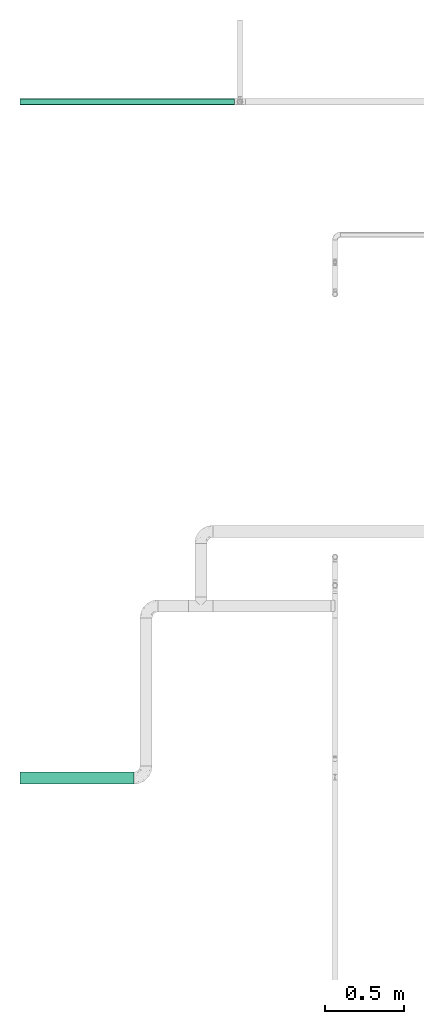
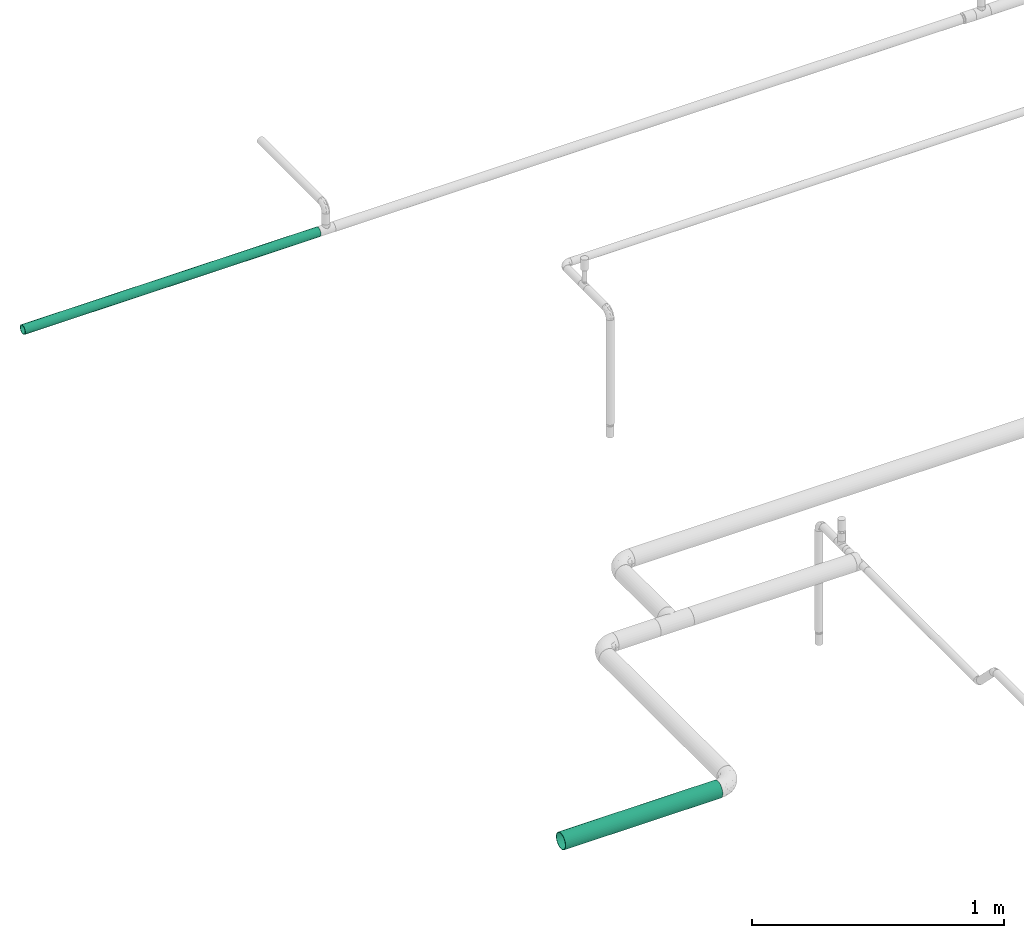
# One storey, part 46 of 51: 2 flow segments.
"""IFC2X3 building model written with IfcOpenShell, lengths in millimetres."""

from ifc_helpers import new_model, entity, si_unit, converted_unit, derived_unit, direction, frame, place, context, subcontext, project, spatial, faceted_brep, type_object, element, save


model = new_model("IFC2X3")

# Units and contexts
model_context = context("Model", 3, precision=0.01, world=frame((0.0, 4.29681676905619e-09, 0.0)), true_north=direction((4.01073788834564e-13, 1.0)))
plan_context = context("Plan", 3, precision=0.01, world=frame((0.0, 4.29681676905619e-09, 0.0)), true_north=direction((4.01073788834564e-13, 1.0)))
body_context = subcontext(model_context, "Body", "Model", "MODEL_VIEW")
ifc_project = project(units=[converted_unit("PLANEANGLEUNIT", "DEGREE", entity("IfcPositiveLengthMeasure", 0.0174532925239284), si_unit("PLANEANGLEUNIT", "RADIAN"), dimensions=[0, 0, 0, 0, 0, 0, 0]), si_unit("AREAUNIT", "SQUARE_METRE"), si_unit("LENGTHUNIT", "METRE", prefix="MILLI"), si_unit("MASSUNIT", "GRAM", prefix="KILO"), si_unit("POWERUNIT", "WATT"), si_unit("PRESSUREUNIT", "PASCAL"), si_unit("FORCEUNIT", "NEWTON", prefix="KILO"), si_unit("ELECTRICVOLTAGEUNIT", "VOLT"), si_unit("ELECTRICCURRENTUNIT", "AMPERE"), si_unit("THERMODYNAMICTEMPERATUREUNIT", "DEGREE_CELSIUS"), si_unit("TIMEUNIT", "SECOND"), si_unit("VOLUMEUNIT", "CUBIC_METRE"), derived_unit("LINEARVELOCITYUNIT", [(si_unit("LENGTHUNIT", "METRE"), 1), (si_unit("TIMEUNIT", "SECOND"), -1)]), derived_unit("VOLUMETRICFLOWRATEUNIT", [(si_unit("VOLUMEUNIT", "CUBIC_METRE"), 1), (si_unit("TIMEUNIT", "SECOND"), -1)]), derived_unit("THERMALTRANSMITTANCEUNIT", [(si_unit("POWERUNIT", "WATT"), 1), (si_unit("THERMODYNAMICTEMPERATUREUNIT", "KELVIN"), -1), (si_unit("AREAUNIT", "SQUARE_METRE"), -1)]), derived_unit("SOUNDPRESSUREUNIT", [(si_unit("PRESSUREUNIT", "PASCAL"), 1)])], contexts=[model_context, plan_context])

# Site, building, storey
site_placement = place(None, frame((0.0, -4.29681676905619e-09, 0.0), z_axis=(0.0, 0.0, 1.0), x_axis=(1.0, 0.0, 0.0)))
site = spatial("IfcSite", under=ifc_project, at=site_placement, Name="ENGM", CompositionType="ELEMENT")
building_placement = place(site_placement, frame((0.0, 4.29681676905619e-09, 0.0), z_axis=(0.0, 0.0, 1.0), x_axis=(1.0, 0.0, 0.0)))
building = spatial("IfcBuilding", under=site, at=building_placement, Name="TH", CompositionType="ELEMENT")
storey_placement = place(building_placement, frame((0.0, 0.0, 210200.0), z_axis=(0.0, 0.0, 1.0), x_axis=(1.0, 0.0, 0.0)))
storey = spatial("IfcBuildingStorey", under=building, at=storey_placement, Name="Nivå F - 0,7 m", CompositionType="ELEMENT", Elevation=210200.0)

# Flow segments
pipe_segment_type = type_object("IfcPipeSegmentType", Name="Stålrør normaltykke", PredefinedType="RIGIDSEGMENT")
flow_segment_1_placement = place(storey_placement, frame((896466.11443, 487040.10129, 2819.99995999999), z_axis=(0.0, 0.0, 1.0), x_axis=(-1.0, 0.0, 0.0)))
element("IfcFlowSegment", 1, at=flow_segment_1_placement, inside=storey, type_object=pipe_segment_type, Name="Stålrør normaltykke", context=body_context, shape_type="Brep", body=[
    faceted_brep([(1354.2082614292, 19.2, 0.0), (1354.2082614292, 18.9083088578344, -3.33404501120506), (0.0, 18.9083088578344, -3.33404501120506), (0.0, 19.2, 0.0), (1354.2082614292, 18.0420983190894, -6.56678675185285), (0.0, 18.0420983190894, -6.56678675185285), (1354.2082614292, 16.6276877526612, -9.60000000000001), (0.0, 16.6276877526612, -9.60000000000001), (1354.2082614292, 14.7080533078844, -12.3415221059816), (0.0, 14.7080533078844, -12.3415221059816), (1354.2082614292, 12.3415221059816, -14.7080533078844), (0.0, 12.3415221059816, -14.7080533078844), (1354.2082614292, 9.6, -16.6276877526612), (0.0, 9.6, -16.6276877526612), (1354.2082614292, 6.56678675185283, -18.0420983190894), (0.0, 6.56678675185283, -18.0420983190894), (1354.2082614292, 3.33404501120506, -18.9083088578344), (0.0, 3.33404501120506, -18.9083088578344), (1354.2082614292, -3.52698278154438e-15, -19.2), (0.0, -3.52698278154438e-15, -19.2), (1354.2082614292, -3.33404501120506, -18.9083088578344), (0.0, -3.33404501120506, -18.9083088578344), (1354.2082614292, -6.56678675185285, -18.0420983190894), (0.0, -6.56678675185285, -18.0420983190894), (1354.2082614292, -9.60000000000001, -16.6276877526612), (0.0, -9.60000000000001, -16.6276877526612), (1354.2082614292, -12.3415221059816, -14.7080533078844), (0.0, -12.3415221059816, -14.7080533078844), (1354.2082614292, -14.7080533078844, -12.3415221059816), (0.0, -14.7080533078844, -12.3415221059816), (1354.2082614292, -16.6276877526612, -9.59999999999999), (0.0, -16.6276877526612, -9.59999999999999), (1354.2082614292, -18.0420983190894, -6.56678675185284), (0.0, -18.0420983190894, -6.56678675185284), (1354.2082614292, -18.9083088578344, -3.33404501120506), (0.0, -18.9083088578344, -3.33404501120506), (1354.2082614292, -19.2, 2.35132185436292e-15), (0.0, -19.2, 2.35132185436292e-15), (1354.2082614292, -18.9083088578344, 3.33404501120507), (0.0, -18.9083088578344, 3.33404501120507), (1354.2082614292, -18.0420983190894, 6.56678675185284), (0.0, -18.0420983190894, 6.56678675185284), (1354.2082614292, -16.6276877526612, 9.6), (0.0, -16.6276877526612, 9.6), (1354.2082614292, -14.7080533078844, 12.3415221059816), (0.0, -14.7080533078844, 12.3415221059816), (1354.2082614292, -12.3415221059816, 14.7080533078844), (0.0, -12.3415221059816, 14.7080533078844), (1354.2082614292, -9.6, 16.6276877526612), (0.0, -9.6, 16.6276877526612), (1354.2082614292, -6.56678675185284, 18.0420983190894), (0.0, -6.56678675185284, 18.0420983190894), (1354.2082614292, -3.33404501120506, 18.9083088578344), (0.0, -3.33404501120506, 18.9083088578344), (1354.2082614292, 1.17566092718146e-15, 19.2), (0.0, 1.17566092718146e-15, 19.2), (1354.2082614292, 3.33404501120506, 18.9083088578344), (0.0, 3.33404501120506, 18.9083088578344), (1354.2082614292, 6.56678675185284, 18.0420983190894), (0.0, 6.56678675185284, 18.0420983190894), (1354.2082614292, 9.6, 16.6276877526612), (0.0, 9.6, 16.6276877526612), (1354.2082614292, 12.3415221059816, 14.7080533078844), (0.0, 12.3415221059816, 14.7080533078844), (1354.2082614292, 14.7080533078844, 12.3415221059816), (0.0, 14.7080533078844, 12.3415221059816), (1354.2082614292, 16.6276877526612, 9.6), (0.0, 16.6276877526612, 9.6), (1354.2082614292, 18.0420983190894, 6.56678675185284), (0.0, 18.0420983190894, 6.56678675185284), (1354.2082614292, 18.9083088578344, 3.33404501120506), (0.0, 18.9083088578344, 3.33404501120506), (1354.2082614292, 20.8779243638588, -3.68134136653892), (1354.2082614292, 21.2, 0.0), (0.0, 21.2, 0.0), (0.0, 20.8779243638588, -3.68134136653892), (1354.2082614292, 20.8779243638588, 3.68134136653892), (0.0, 20.8779243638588, 3.68134136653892), (1354.2082614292, 19.9214835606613, 7.25082703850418), (0.0, 19.9214835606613, 7.25082703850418), (1354.2082614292, 18.3597385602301, 10.6), (0.0, 18.3597385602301, 10.6), (1354.2082614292, 16.2401421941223, 13.6270973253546), (0.0, 16.2401421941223, 13.6270973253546), (1354.2082614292, 13.6270973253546, 16.2401421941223), (0.0, 13.6270973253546, 16.2401421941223), (1354.2082614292, 10.6, 18.3597385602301), (0.0, 10.6, 18.3597385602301), (1354.2082614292, 7.25082703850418, 19.9214835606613), (0.0, 7.25082703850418, 19.9214835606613), (1354.2082614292, 3.68134136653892, 20.8779243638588), (0.0, 3.68134136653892, 20.8779243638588), (1354.2082614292, 1.29812560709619e-15, 21.2), (0.0, 1.29812560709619e-15, 21.2), (1354.2082614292, -3.68134136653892, 20.8779243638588), (0.0, -3.68134136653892, 20.8779243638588), (1354.2082614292, -7.25082703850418, 19.9214835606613), (0.0, -7.25082703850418, 19.9214835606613), (1354.2082614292, -10.6, 18.3597385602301), (0.0, -10.6, 18.3597385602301), (1354.2082614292, -13.6270973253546, 16.2401421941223), (0.0, -13.6270973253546, 16.2401421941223), (1354.2082614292, -16.2401421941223, 13.6270973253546), (0.0, -16.2401421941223, 13.6270973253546), (1354.2082614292, -18.3597385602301, 10.6), (0.0, -18.3597385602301, 10.6), (1354.2082614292, -19.9214835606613, 7.25082703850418), (0.0, -19.9214835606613, 7.25082703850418), (1354.2082614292, -20.8779243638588, 3.68134136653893), (0.0, -20.8779243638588, 3.68134136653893), (1354.2082614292, -21.2, 2.59625121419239e-15), (0.0, -21.2, 2.59625121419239e-15), (1354.2082614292, -20.8779243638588, -3.68134136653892), (0.0, -20.8779243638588, -3.68134136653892), (1354.2082614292, -19.9214835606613, -7.25082703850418), (0.0, -19.9214835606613, -7.25082703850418), (1354.2082614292, -18.3597385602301, -10.6), (0.0, -18.3597385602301, -10.6), (1354.2082614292, -16.2401421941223, -13.6270973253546), (0.0, -16.2401421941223, -13.6270973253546), (1354.2082614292, -13.6270973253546, -16.2401421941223), (0.0, -13.6270973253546, -16.2401421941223), (1354.2082614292, -10.6, -18.3597385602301), (0.0, -10.6, -18.3597385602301), (1354.2082614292, -7.25082703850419, -19.9214835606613), (0.0, -7.25082703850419, -19.9214835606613), (1354.2082614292, -3.68134136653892, -20.8779243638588), (0.0, -3.68134136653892, -20.8779243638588), (1354.2082614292, -3.89437682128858e-15, -21.2), (0.0, -3.89437682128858e-15, -21.2), (1354.2082614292, 3.68134136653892, -20.8779243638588), (0.0, 3.68134136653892, -20.8779243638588), (1354.2082614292, 7.25082703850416, -19.9214835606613), (0.0, 7.25082703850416, -19.9214835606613), (1354.2082614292, 10.6, -18.3597385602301), (0.0, 10.6, -18.3597385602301), (1354.2082614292, 13.6270973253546, -16.2401421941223), (0.0, 13.6270973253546, -16.2401421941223), (1354.2082614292, 16.2401421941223, -13.6270973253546), (0.0, 16.2401421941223, -13.6270973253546), (1354.2082614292, 18.3597385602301, -10.6), (0.0, 18.3597385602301, -10.6), (1354.2082614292, 19.9214835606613, -7.25082703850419), (0.0, 19.9214835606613, -7.25082703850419)], [[[0, 1, 2, 3]], [[1, 4, 5, 2]], [[4, 6, 7, 5]], [[6, 8, 9, 7]], [[8, 10, 11, 9]], [[10, 12, 13, 11]], [[12, 14, 15, 13]], [[14, 16, 17, 15]], [[16, 18, 19, 17]], [[18, 20, 21, 19]], [[20, 22, 23, 21]], [[22, 24, 25, 23]], [[24, 26, 27, 25]], [[26, 28, 29, 27]], [[28, 30, 31, 29]], [[30, 32, 33, 31]], [[32, 34, 35, 33]], [[34, 36, 37, 35]], [[36, 38, 39, 37]], [[38, 40, 41, 39]], [[40, 42, 43, 41]], [[42, 44, 45, 43]], [[44, 46, 47, 45]], [[46, 48, 49, 47]], [[48, 50, 51, 49]], [[50, 52, 53, 51]], [[52, 54, 55, 53]], [[54, 56, 57, 55]], [[56, 58, 59, 57]], [[58, 60, 61, 59]], [[60, 62, 63, 61]], [[62, 64, 65, 63]], [[64, 66, 67, 65]], [[66, 68, 69, 67]], [[68, 70, 71, 69]], [[70, 0, 3, 71]], [[72, 73, 74, 75]], [[73, 76, 77, 74]], [[76, 78, 79, 77]], [[78, 80, 81, 79]], [[80, 82, 83, 81]], [[82, 84, 85, 83]], [[84, 86, 87, 85]], [[86, 88, 89, 87]], [[88, 90, 91, 89]], [[90, 92, 93, 91]], [[92, 94, 95, 93]], [[94, 96, 97, 95]], [[96, 98, 99, 97]], [[98, 100, 101, 99]], [[100, 102, 103, 101]], [[102, 104, 105, 103]], [[104, 106, 107, 105]], [[106, 108, 109, 107]], [[108, 110, 111, 109]], [[110, 112, 113, 111]], [[112, 114, 115, 113]], [[114, 116, 117, 115]], [[116, 118, 119, 117]], [[118, 120, 121, 119]], [[120, 122, 123, 121]], [[122, 124, 125, 123]], [[124, 126, 127, 125]], [[126, 128, 129, 127]], [[128, 130, 131, 129]], [[130, 132, 133, 131]], [[132, 134, 135, 133]], [[134, 136, 137, 135]], [[136, 138, 139, 137]], [[138, 140, 141, 139]], [[140, 142, 143, 141]], [[142, 72, 75, 143]], [[75, 74, 77, 79, 81, 83, 85, 87, 89, 91, 93, 95, 97, 99, 101, 103, 105, 107, 109, 111, 113, 115, 117, 119, 121, 123, 125, 127, 129, 131, 133, 135, 137, 139, 141, 143], [3, 2, 5, 7, 9, 11, 13, 15, 17, 19, 21, 23, 25, 27, 29, 31, 33, 35, 37, 39, 41, 43, 45, 47, 49, 51, 53, 55, 57, 59, 61, 63, 65, 67, 69, 71]], [[142, 140, 138, 136, 134, 132, 130, 128, 126, 124, 122, 120, 118, 116, 114, 112, 110, 108, 106, 104, 102, 100, 98, 96, 94, 92, 90, 88, 86, 84, 82, 80, 78, 76, 73, 72], [70, 68, 66, 64, 62, 60, 58, 56, 54, 52, 50, 48, 46, 44, 42, 40, 38, 36, 34, 32, 30, 28, 26, 24, 22, 20, 18, 16, 14, 12, 10, 8, 6, 4, 1, 0]]], orient=[[False], [False], [False], [False], [False], [False], [False], [False], [False], [False], [False], [False], [False], [False], [False], [False], [False], [False], [False], [False], [False], [False], [False], [False], [False], [False], [False], [False], [False], [False], [False], [False], [False], [False], [False], [False], [False], [False], [False], [False], [False], [False], [False], [False], [False], [False], [False], [False], [False], [False], [False], [False], [False], [False], [False], [False], [False], [False], [False], [False], [False], [False], [False], [False], [False], [False], [False], [False], [False], [False], [False], [False], [False, False], [False, False]]),
])
flow_segment_2_placement = place(storey_placement, frame((894006.16663, 482771.97183, 2933.0), z_axis=(0.0, 0.0, 1.0), x_axis=(1.0, 0.0, 0.0)))
element("IfcFlowSegment", 2, at=flow_segment_2_placement, inside=storey, type_object=pipe_segment_type, Name="Stålrør normaltykke", context=body_context, shape_type="Brep", body=[
    faceted_brep([(1105.73953857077, 35.4530791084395, -6.25133439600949), (1105.73953857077, 36.0, 0.0), (1825.4, 36.0, 0.0), (1825.4, 35.4530791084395, -6.25133439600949), (1105.73953857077, 33.8289343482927, -12.3127251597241), (1825.4, 33.8289343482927, -12.3127251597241), (1105.73953857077, 31.1769145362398, -18.0), (1825.4, 31.1769145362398, -18.0), (1105.73953857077, 27.5775999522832, -23.1403539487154), (1825.4, 27.5775999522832, -23.1403539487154), (1105.73953857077, 23.1403539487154, -27.5775999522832), (1825.4, 23.1403539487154, -27.5775999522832), (1105.73953857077, 18.0, -31.1769145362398), (1825.4, 18.0, -31.1769145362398), (1105.73953857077, 12.3127251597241, -33.8289343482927), (1825.4, 12.3127251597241, -33.8289343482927), (1105.73953857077, 6.25133439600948, -35.4530791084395), (1825.4, 6.25133439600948, -35.4530791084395), (1105.73953857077, -6.61309271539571e-15, -36.0), (1825.4, -6.61309271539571e-15, -36.0), (1105.73953857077, -6.25133439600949, -35.4530791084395), (1825.4, -6.25133439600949, -35.4530791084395), (1105.73953857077, -12.3127251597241, -33.8289343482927), (1825.4, -12.3127251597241, -33.8289343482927), (1105.73953857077, -18.0, -31.1769145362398), (1825.4, -18.0, -31.1769145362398), (1105.73953857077, -23.1403539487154, -27.5775999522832), (1825.4, -23.1403539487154, -27.5775999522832), (1105.73953857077, -27.5775999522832, -23.1403539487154), (1825.4, -27.5775999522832, -23.1403539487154), (1105.73953857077, -31.1769145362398, -18.0), (1825.4, -31.1769145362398, -18.0), (1105.73953857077, -33.8289343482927, -12.3127251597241), (1825.4, -33.8289343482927, -12.3127251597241), (1105.73953857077, -35.4530791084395, -6.25133439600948), (1825.4, -35.4530791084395, -6.25133439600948), (1105.73953857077, -36.0, 4.40872847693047e-15), (1825.4, -36.0, 4.40872847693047e-15), (1105.73953857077, -35.4530791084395, 6.25133439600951), (1825.4, -35.4530791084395, 6.25133439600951), (1105.73953857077, -33.8289343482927, 12.3127251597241), (1825.4, -33.8289343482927, 12.3127251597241), (1105.73953857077, -31.1769145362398, 18.0), (1825.4, -31.1769145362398, 18.0), (1105.73953857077, -27.5775999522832, 23.1403539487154), (1825.4, -27.5775999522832, 23.1403539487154), (1105.73953857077, -23.1403539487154, 27.5775999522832), (1825.4, -23.1403539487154, 27.5775999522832), (1105.73953857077, -18.0, 31.1769145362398), (1825.4, -18.0, 31.1769145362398), (1105.73953857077, -12.3127251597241, 33.8289343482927), (1825.4, -12.3127251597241, 33.8289343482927), (1105.73953857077, -6.25133439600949, 35.4530791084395), (1825.4, -6.25133439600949, 35.4530791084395), (1105.73953857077, 2.20436423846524e-15, 36.0), (1825.4, 2.20436423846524e-15, 36.0), (1105.73953857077, 6.2513343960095, 35.4530791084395), (1825.4, 6.2513343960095, 35.4530791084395), (1105.73953857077, 12.3127251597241, 33.8289343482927), (1825.4, 12.3127251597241, 33.8289343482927), (1105.73953857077, 18.0, 31.1769145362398), (1825.4, 18.0, 31.1769145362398), (1105.73953857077, 23.1403539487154, 27.5775999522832), (1825.4, 23.1403539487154, 27.5775999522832), (1105.73953857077, 27.5775999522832, 23.1403539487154), (1825.4, 27.5775999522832, 23.1403539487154), (1105.73953857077, 31.1769145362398, 18.0), (1825.4, 31.1769145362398, 18.0), (1105.73953857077, 33.8289343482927, 12.3127251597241), (1825.4, 33.8289343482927, 12.3127251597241), (1105.73953857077, 35.4530791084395, 6.25133439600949), (1825.4, 35.4530791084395, 6.25133439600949), (1105.73953857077, 38.0, 0.0), (1105.73953857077, 37.4226946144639, -6.59863075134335), (1825.4, 37.4226946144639, -6.59863075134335), (1825.4, 38.0, 0.0), (1105.73953857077, 37.4226946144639, 6.59863075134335), (1825.4, 37.4226946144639, 6.59863075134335), (1105.73953857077, 35.7083195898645, 12.9967654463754), (1825.4, 35.7083195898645, 12.9967654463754), (1105.73953857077, 32.9089653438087, 19.0), (1825.4, 32.9089653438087, 19.0), (1105.73953857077, 29.1096888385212, 24.4259291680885), (1825.4, 29.1096888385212, 24.4259291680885), (1105.73953857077, 24.4259291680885, 29.1096888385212), (1825.4, 24.4259291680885, 29.1096888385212), (1105.73953857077, 19.0, 32.9089653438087), (1825.4, 19.0, 32.9089653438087), (1105.73953857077, 12.9967654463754, 35.7083195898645), (1825.4, 12.9967654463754, 35.7083195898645), (1105.73953857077, 6.59863075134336, 37.4226946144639), (1825.4, 6.59863075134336, 37.4226946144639), (1105.73953857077, 2.32682891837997e-15, 38.0), (1825.4, 2.32682891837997e-15, 38.0), (1105.73953857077, -6.59863075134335, 37.4226946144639), (1825.4, -6.59863075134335, 37.4226946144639), (1105.73953857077, -12.9967654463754, 35.7083195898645), (1825.4, -12.9967654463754, 35.7083195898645), (1105.73953857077, -19.0, 32.9089653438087), (1825.4, -19.0, 32.9089653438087), (1105.73953857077, -24.4259291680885, 29.1096888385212), (1825.4, -24.4259291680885, 29.1096888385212), (1105.73953857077, -29.1096888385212, 24.4259291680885), (1825.4, -29.1096888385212, 24.4259291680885), (1105.73953857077, -32.9089653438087, 19.0), (1825.4, -32.9089653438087, 19.0), (1105.73953857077, -35.7083195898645, 12.9967654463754), (1825.4, -35.7083195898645, 12.9967654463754), (1105.73953857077, -37.4226946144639, 6.59863075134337), (1825.4, -37.4226946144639, 6.59863075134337), (1105.73953857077, -38.0, 4.65365783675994e-15), (1825.4, -38.0, 4.65365783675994e-15), (1105.73953857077, -37.4226946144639, -6.59863075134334), (1825.4, -37.4226946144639, -6.59863075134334), (1105.73953857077, -35.7083195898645, -12.9967654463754), (1825.4, -35.7083195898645, -12.9967654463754), (1105.73953857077, -32.9089653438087, -19.0), (1825.4, -32.9089653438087, -19.0), (1105.73953857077, -29.1096888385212, -24.4259291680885), (1825.4, -29.1096888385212, -24.4259291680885), (1105.73953857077, -24.4259291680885, -29.1096888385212), (1825.4, -24.4259291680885, -29.1096888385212), (1105.73953857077, -19.0, -32.9089653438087), (1825.4, -19.0, -32.9089653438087), (1105.73953857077, -12.9967654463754, -35.7083195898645), (1825.4, -12.9967654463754, -35.7083195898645), (1105.73953857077, -6.59863075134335, -37.4226946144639), (1825.4, -6.59863075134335, -37.4226946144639), (1105.73953857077, -6.98048675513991e-15, -38.0), (1825.4, -6.98048675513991e-15, -38.0), (1105.73953857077, 6.59863075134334, -37.4226946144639), (1825.4, 6.59863075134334, -37.4226946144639), (1105.73953857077, 12.9967654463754, -35.7083195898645), (1825.4, 12.9967654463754, -35.7083195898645), (1105.73953857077, 19.0, -32.9089653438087), (1825.4, 19.0, -32.9089653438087), (1105.73953857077, 24.4259291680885, -29.1096888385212), (1825.4, 24.4259291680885, -29.1096888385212), (1105.73953857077, 29.1096888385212, -24.4259291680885), (1825.4, 29.1096888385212, -24.4259291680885), (1105.73953857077, 32.9089653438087, -19.0), (1825.4, 32.9089653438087, -19.0), (1105.73953857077, 35.7083195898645, -12.9967654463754), (1825.4, 35.7083195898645, -12.9967654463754)], [[[0, 1, 2, 3]], [[4, 0, 3, 5]], [[6, 4, 5, 7]], [[8, 6, 7, 9]], [[10, 8, 9, 11]], [[12, 10, 11, 13]], [[14, 12, 13, 15]], [[16, 14, 15, 17]], [[18, 16, 17, 19]], [[20, 18, 19, 21]], [[22, 20, 21, 23]], [[24, 22, 23, 25]], [[26, 24, 25, 27]], [[28, 26, 27, 29]], [[30, 28, 29, 31]], [[32, 30, 31, 33]], [[34, 32, 33, 35]], [[36, 34, 35, 37]], [[38, 36, 37, 39]], [[40, 38, 39, 41]], [[42, 40, 41, 43]], [[44, 42, 43, 45]], [[46, 44, 45, 47]], [[48, 46, 47, 49]], [[50, 48, 49, 51]], [[52, 50, 51, 53]], [[54, 52, 53, 55]], [[56, 54, 55, 57]], [[58, 56, 57, 59]], [[60, 58, 59, 61]], [[62, 60, 61, 63]], [[64, 62, 63, 65]], [[66, 64, 65, 67]], [[68, 66, 67, 69]], [[70, 68, 69, 71]], [[1, 70, 71, 2]], [[72, 73, 74, 75]], [[76, 72, 75, 77]], [[78, 76, 77, 79]], [[80, 78, 79, 81]], [[82, 80, 81, 83]], [[84, 82, 83, 85]], [[86, 84, 85, 87]], [[88, 86, 87, 89]], [[90, 88, 89, 91]], [[92, 90, 91, 93]], [[94, 92, 93, 95]], [[96, 94, 95, 97]], [[98, 96, 97, 99]], [[100, 98, 99, 101]], [[102, 100, 101, 103]], [[104, 102, 103, 105]], [[106, 104, 105, 107]], [[108, 106, 107, 109]], [[110, 108, 109, 111]], [[112, 110, 111, 113]], [[114, 112, 113, 115]], [[116, 114, 115, 117]], [[118, 116, 117, 119]], [[120, 118, 119, 121]], [[122, 120, 121, 123]], [[124, 122, 123, 125]], [[126, 124, 125, 127]], [[128, 126, 127, 129]], [[130, 128, 129, 131]], [[132, 130, 131, 133]], [[134, 132, 133, 135]], [[136, 134, 135, 137]], [[138, 136, 137, 139]], [[140, 138, 139, 141]], [[142, 140, 141, 143]], [[73, 142, 143, 74]], [[75, 74, 143, 141, 139, 137, 135, 133, 131, 129, 127, 125, 123, 121, 119, 117, 115, 113, 111, 109, 107, 105, 103, 101, 99, 97, 95, 93, 91, 89, 87, 85, 83, 81, 79, 77], [2, 71, 69, 67, 65, 63, 61, 59, 57, 55, 53, 51, 49, 47, 45, 43, 41, 39, 37, 35, 33, 31, 29, 27, 25, 23, 21, 19, 17, 15, 13, 11, 9, 7, 5, 3]], [[76, 78, 80, 82, 84, 86, 88, 90, 92, 94, 96, 98, 100, 102, 104, 106, 108, 110, 112, 114, 116, 118, 120, 122, 124, 126, 128, 130, 132, 134, 136, 138, 140, 142, 73, 72], [4, 6, 8, 10, 12, 14, 16, 18, 20, 22, 24, 26, 28, 30, 32, 34, 36, 38, 40, 42, 44, 46, 48, 50, 52, 54, 56, 58, 60, 62, 64, 66, 68, 70, 1, 0]]], orient=[[False], [False], [False], [False], [False], [False], [False], [False], [False], [False], [False], [False], [False], [False], [False], [False], [False], [False], [False], [False], [False], [False], [False], [False], [False], [False], [False], [False], [False], [False], [False], [False], [False], [False], [False], [False], [False], [False], [False], [False], [False], [False], [False], [False], [False], [False], [False], [False], [False], [False], [False], [False], [False], [False], [False], [False], [False], [False], [False], [False], [False], [False], [False], [False], [False], [False], [False], [False], [False], [False], [False], [False], [False, False], [False, False]]),
])

save(model, "model.ifc")
